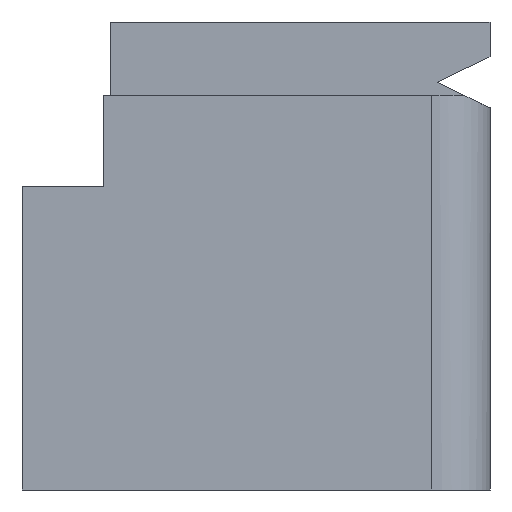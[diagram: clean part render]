
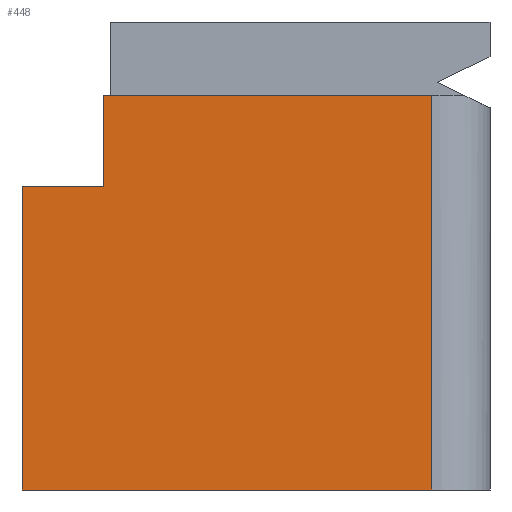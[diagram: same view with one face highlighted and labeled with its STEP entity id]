
A CAD part, front view. The second image highlights one B-rep face of the part: STEP entity #448.
In plain terms, the highlighted planar face has unit normal (0, -1, 0).
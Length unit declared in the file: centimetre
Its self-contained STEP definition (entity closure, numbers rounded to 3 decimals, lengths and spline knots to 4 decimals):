
#11 = CARTESIAN_POINT ( 'NONE',  ( 875.0986, 0., 1000. ) ) ;
#24 = DIRECTION ( 'NONE',  ( 0., 0., 1. ) ) ;
#33 = DIRECTION ( 'NONE',  ( 1., 0., 0. ) ) ;
#46 = EDGE_CURVE ( 'NONE', #946, #199, #433, .T. ) ;
#59 = EDGE_CURVE ( 'NONE', #309, #414, #634, .T. ) ;
#93 = CARTESIAN_POINT ( 'NONE',  ( 0., 0., 1000. ) ) ;
#100 = LINE ( 'NONE', #767, #750 ) ;
#103 = VECTOR ( 'NONE', #476, 100. ) ;
#148 = VECTOR ( 'NONE', #923, 100. ) ;
#154 = FACE_OUTER_BOUND ( 'NONE', #418, .T. ) ;
#162 = ORIENTED_EDGE ( 'NONE', *, *, #59, .T. ) ;
#182 = CARTESIAN_POINT ( 'NONE',  ( 0., 0., 648.5222 ) ) ;
#199 = VERTEX_POINT ( 'NONE', #563 ) ;
#224 = VERTEX_POINT ( 'NONE', #182 ) ;
#246 = CARTESIAN_POINT ( 'NONE',  ( 0., 0., 1000. ) ) ;
#278 = VECTOR ( 'NONE', #33, 100. ) ;
#287 = EDGE_CURVE ( 'NONE', #581, #946, #490, .T. ) ;
#309 = VERTEX_POINT ( 'NONE', #860 ) ;
#315 = PLANE ( 'NONE',  #440 ) ;
#343 = CARTESIAN_POINT ( 'NONE',  ( 173.6817, 0., 648.5222 ) ) ;
#354 = CARTESIAN_POINT ( 'NONE',  ( 0., 0., 843.7221 ) ) ;
#393 = DIRECTION ( 'NONE',  ( 0., 0., -1. ) ) ;
#406 = CARTESIAN_POINT ( 'NONE',  ( 173.6817, 0., 648.5222 ) ) ;
#414 = VERTEX_POINT ( 'NONE', #570 ) ;
#418 = EDGE_LOOP ( 'NONE', ( #456, #854, #809, #741, #162, #518 ) ) ;
#433 = LINE ( 'NONE', #354, #103 ) ;
#440 = AXIS2_PLACEMENT_3D ( 'NONE', #246, #683, #839 ) ;
#448 = ADVANCED_FACE ( 'NONE', ( #154 ), #315, .F. ) ;
#456 = ORIENTED_EDGE ( 'NONE', *, *, #46, .F. ) ;
#466 = EDGE_CURVE ( 'NONE', #414, #199, #472, .T. ) ;
#472 = LINE ( 'NONE', #11, #728 ) ;
#476 = DIRECTION ( 'NONE',  ( 1., 0., 0. ) ) ;
#477 = VECTOR ( 'NONE', #393, 100. ) ;
#490 = LINE ( 'NONE', #406, #148 ) ;
#518 = ORIENTED_EDGE ( 'NONE', *, *, #466, .T. ) ;
#563 = CARTESIAN_POINT ( 'NONE',  ( 875.0986, 0., 843.7221 ) ) ;
#570 = CARTESIAN_POINT ( 'NONE',  ( 875.0986, 0., 0. ) ) ;
#581 = VERTEX_POINT ( 'NONE', #343 ) ;
#601 = DIRECTION ( 'NONE',  ( 1., 0., 0. ) ) ;
#619 = CARTESIAN_POINT ( 'NONE',  ( 0., 0., 0. ) ) ;
#634 = LINE ( 'NONE', #619, #278 ) ;
#683 = DIRECTION ( 'NONE',  ( 0., 1., 0. ) ) ;
#684 = LINE ( 'NONE', #93, #477 ) ;
#728 = VECTOR ( 'NONE', #24, 100. ) ;
#741 = ORIENTED_EDGE ( 'NONE', *, *, #917, .T. ) ;
#750 = VECTOR ( 'NONE', #601, 100. ) ;
#767 = CARTESIAN_POINT ( 'NONE',  ( 173.6817, 0., 648.5222 ) ) ;
#800 = CARTESIAN_POINT ( 'NONE',  ( 173.6817, 0., 843.7221 ) ) ;
#809 = ORIENTED_EDGE ( 'NONE', *, *, #884, .F. ) ;
#839 = DIRECTION ( 'NONE',  ( 0., 0., 1. ) ) ;
#854 = ORIENTED_EDGE ( 'NONE', *, *, #287, .F. ) ;
#860 = CARTESIAN_POINT ( 'NONE',  ( 0., 0., 0. ) ) ;
#884 = EDGE_CURVE ( 'NONE', #224, #581, #100, .T. ) ;
#917 = EDGE_CURVE ( 'NONE', #224, #309, #684, .T. ) ;
#923 = DIRECTION ( 'NONE',  ( 0., 0., 1. ) ) ;
#946 = VERTEX_POINT ( 'NONE', #800 ) ;
